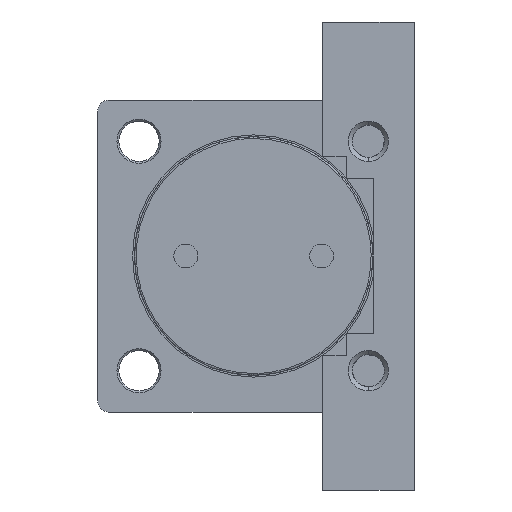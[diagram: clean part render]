
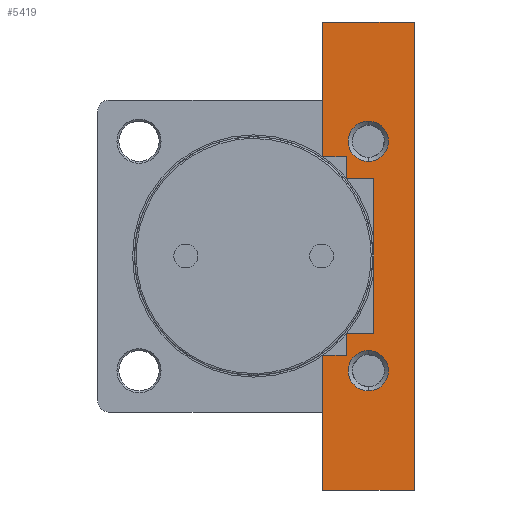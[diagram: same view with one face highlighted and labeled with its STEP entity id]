
A CAD part, left-side view. The second image highlights one B-rep face of the part: STEP entity #5419.
In plain terms, the highlighted planar face has unit normal (1, 0, 0).
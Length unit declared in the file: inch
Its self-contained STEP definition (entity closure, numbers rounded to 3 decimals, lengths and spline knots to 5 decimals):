
#28 = CARTESIAN_POINT ( 'NONE',  ( -3.01181, -1.47638, -5.01969 ) ) ;
#148 = AXIS2_PLACEMENT_3D ( 'NONE', #8833, #8822, #8787 ) ;
#184 = DIRECTION ( 'NONE',  ( 0., 0., 1. ) ) ;
#200 = DIRECTION ( 'NONE',  ( -1., 0., 0. ) ) ;
#220 = CARTESIAN_POINT ( 'NONE',  ( -3.01181, -2.46063, -2.46063 ) ) ;
#423 = CARTESIAN_POINT ( 'NONE',  ( -3.01181, -1.98819, 5.01969 ) ) ;
#528 = DIRECTION ( 'NONE',  ( 0., 0., 1. ) ) ;
#1152 = VERTEX_POINT ( 'NONE', #7656 ) ;
#1538 = ORIENTED_EDGE ( 'NONE', *, *, #7021, .T. ) ;
#1750 = CIRCLE ( 'NONE', #4179, 0.43307 ) ;
#1957 = EDGE_CURVE ( 'NONE', #14884, #10885, #4049, .T. ) ;
#2029 = CARTESIAN_POINT ( 'NONE',  ( -3.01181, -1.98819, -1.65354 ) ) ;
#2374 = EDGE_CURVE ( 'NONE', #6176, #8294, #4829, .T. ) ;
#2458 = CARTESIAN_POINT ( 'NONE',  ( -3.01181, -2.46063, -2.02756 ) ) ;
#2666 = EDGE_CURVE ( 'NONE', #10532, #7452, #5219, .T. ) ;
#2688 = VERTEX_POINT ( 'NONE', #28 ) ;
#2766 = ORIENTED_EDGE ( 'NONE', *, *, #6786, .T. ) ;
#2849 = VERTEX_POINT ( 'NONE', #3505 ) ;
#3505 = CARTESIAN_POINT ( 'NONE',  ( -3.01181, -1.47638, -2.12598 ) ) ;
#3607 = AXIS2_PLACEMENT_3D ( 'NONE', #4468, #4464, #4450 ) ;
#3609 = ORIENTED_EDGE ( 'NONE', *, *, #6195, .T. ) ;
#3708 = EDGE_LOOP ( 'NONE', ( #8253, #8062, #7886, #5988, #5710, #5442, #5216, #1538, #2766, #13570, #3609, #12595 ) ) ;
#3760 = CARTESIAN_POINT ( 'NONE',  ( -3.01181, -2.57874, -1.65354 ) ) ;
#3942 = DIRECTION ( 'NONE',  ( 0., 0., 1. ) ) ;
#4007 = CARTESIAN_POINT ( 'NONE',  ( -3.01181, -3.44488, 2.12598 ) ) ;
#4038 = DIRECTION ( 'NONE',  ( 0., 1., 0. ) ) ;
#4049 = CIRCLE ( 'NONE', #148, 0.43307 ) ;
#4056 = CARTESIAN_POINT ( 'NONE',  ( -3.01181, -1.98819, 5.01969 ) ) ;
#4089 = CARTESIAN_POINT ( 'NONE',  ( -3.01181, -1.47638, 5.01969 ) ) ;
#4179 = AXIS2_PLACEMENT_3D ( 'NONE', #9904, #14567, #14413 ) ;
#4450 = DIRECTION ( 'NONE',  ( 0., 0., 1. ) ) ;
#4464 = DIRECTION ( 'NONE',  ( -1., 0., 0. ) ) ;
#4468 = CARTESIAN_POINT ( 'NONE',  ( -3.01181, -2.46063, 2.46063 ) ) ;
#4606 = EDGE_LOOP ( 'NONE', ( #8731, #8517 ) ) ;
#4829 = LINE ( 'NONE', #4007, #4861 ) ;
#4861 = VECTOR ( 'NONE', #4038, 39.37008 ) ;
#4894 = DIRECTION ( 'NONE',  ( 0., 0., -1. ) ) ;
#4909 = DIRECTION ( 'NONE',  ( 1., 0., 0. ) ) ;
#4979 = CARTESIAN_POINT ( 'NONE',  ( -3.01181, -3.44488, -5.01969 ) ) ;
#5010 = CARTESIAN_POINT ( 'NONE',  ( -3.01181, -3.44488, 5.01969 ) ) ;
#5058 = PLANE ( 'NONE',  #10865 ) ;
#5151 = CARTESIAN_POINT ( 'NONE',  ( -3.01181, -3.44488, 5.01969 ) ) ;
#5216 = ORIENTED_EDGE ( 'NONE', *, *, #8055, .T. ) ;
#5219 = CIRCLE ( 'NONE', #10009, 0.43307 ) ;
#5350 = DIRECTION ( 'NONE',  ( 0., -1., 0. ) ) ;
#5419 = ADVANCED_FACE ( 'NONE', ( #9682, #9607, #9562 ), #5058, .T. ) ;
#5440 = DIRECTION ( 'NONE',  ( 0., 0., 1. ) ) ;
#5442 = ORIENTED_EDGE ( 'NONE', *, *, #8302, .T. ) ;
#5459 = CARTESIAN_POINT ( 'NONE',  ( -3.01181, -3.44488, 5.01969 ) ) ;
#5468 = CARTESIAN_POINT ( 'NONE',  ( -3.01181, -3.44488, -5.01969 ) ) ;
#5557 = VERTEX_POINT ( 'NONE', #3760 ) ;
#5580 = VERTEX_POINT ( 'NONE', #2029 ) ;
#5665 = VECTOR ( 'NONE', #5440, 39.37008 ) ;
#5684 = VECTOR ( 'NONE', #11381, 39.37008 ) ;
#5710 = ORIENTED_EDGE ( 'NONE', *, *, #8909, .T. ) ;
#5866 = CARTESIAN_POINT ( 'NONE',  ( -3.01181, -1.98819, -2.12598 ) ) ;
#5894 = EDGE_CURVE ( 'NONE', #8226, #6176, #10370, .T. ) ;
#5988 = ORIENTED_EDGE ( 'NONE', *, *, #13332, .F. ) ;
#6176 = VERTEX_POINT ( 'NONE', #7336 ) ;
#6195 = EDGE_CURVE ( 'NONE', #1152, #8226, #10889, .T. ) ;
#6438 = EDGE_CURVE ( 'NONE', #5557, #1152, #11190, .T. ) ;
#6728 = DIRECTION ( 'NONE',  ( 0., -1., 0. ) ) ;
#6786 = EDGE_CURVE ( 'NONE', #5580, #5557, #11673, .T. ) ;
#6918 = VERTEX_POINT ( 'NONE', #4979 ) ;
#6927 = EDGE_CURVE ( 'NONE', #10885, #14884, #11820, .T. ) ;
#7021 = EDGE_CURVE ( 'NONE', #13279, #5580, #11940, .T. ) ;
#7336 = CARTESIAN_POINT ( 'NONE',  ( -3.01181, -1.98819, 2.12598 ) ) ;
#7452 = VERTEX_POINT ( 'NONE', #2458 ) ;
#7618 = VERTEX_POINT ( 'NONE', #4089 ) ;
#7656 = CARTESIAN_POINT ( 'NONE',  ( -3.01181, -2.57874, 1.65354 ) ) ;
#7761 = CARTESIAN_POINT ( 'NONE',  ( -3.01181, -2.46063, 2.02756 ) ) ;
#7886 = ORIENTED_EDGE ( 'NONE', *, *, #8973, .T. ) ;
#7995 = CARTESIAN_POINT ( 'NONE',  ( -3.01181, -3.44488, -1.65354 ) ) ;
#8055 = EDGE_CURVE ( 'NONE', #2849, #13279, #13339, .T. ) ;
#8062 = ORIENTED_EDGE ( 'NONE', *, *, #14238, .T. ) ;
#8226 = VERTEX_POINT ( 'NONE', #12756 ) ;
#8253 = ORIENTED_EDGE ( 'NONE', *, *, #2374, .T. ) ;
#8294 = VERTEX_POINT ( 'NONE', #12462 ) ;
#8302 = EDGE_CURVE ( 'NONE', #2688, #2849, #13625, .T. ) ;
#8335 = EDGE_LOOP ( 'NONE', ( #11130, #10932 ) ) ;
#8517 = ORIENTED_EDGE ( 'NONE', *, *, #2666, .T. ) ;
#8563 = DIRECTION ( 'NONE',  ( 0., 1., 0. ) ) ;
#8731 = ORIENTED_EDGE ( 'NONE', *, *, #11602, .T. ) ;
#8787 = DIRECTION ( 'NONE',  ( 0., 0., 1. ) ) ;
#8822 = DIRECTION ( 'NONE',  ( -1., 0., 0. ) ) ;
#8833 = CARTESIAN_POINT ( 'NONE',  ( -3.01181, -2.46063, 2.46063 ) ) ;
#8909 = EDGE_CURVE ( 'NONE', #6918, #2688, #14394, .T. ) ;
#8965 = CARTESIAN_POINT ( 'NONE',  ( -3.01181, -3.44488, 1.65354 ) ) ;
#8973 = EDGE_CURVE ( 'NONE', #7618, #12409, #14404, .T. ) ;
#8982 = DIRECTION ( 'NONE',  ( 0., 0., 1. ) ) ;
#9347 = CARTESIAN_POINT ( 'NONE',  ( -3.01181, -2.46063, 2.8937 ) ) ;
#9562 = FACE_OUTER_BOUND ( 'NONE', #3708, .T. ) ;
#9607 = FACE_BOUND ( 'NONE', #4606, .T. ) ;
#9682 = FACE_BOUND ( 'NONE', #8335, .T. ) ;
#9904 = CARTESIAN_POINT ( 'NONE',  ( -3.01181, -2.46063, -2.46063 ) ) ;
#10009 = AXIS2_PLACEMENT_3D ( 'NONE', #220, #200, #184 ) ;
#10370 = LINE ( 'NONE', #423, #10391 ) ;
#10391 = VECTOR ( 'NONE', #528, 39.37008 ) ;
#10532 = VERTEX_POINT ( 'NONE', #11708 ) ;
#10706 = LINE ( 'NONE', #13240, #5684 ) ;
#10865 = AXIS2_PLACEMENT_3D ( 'NONE', #5010, #4909, #4894 ) ;
#10873 = VECTOR ( 'NONE', #13737, 39.37008 ) ;
#10885 = VERTEX_POINT ( 'NONE', #7761 ) ;
#10889 = LINE ( 'NONE', #8965, #10873 ) ;
#10932 = ORIENTED_EDGE ( 'NONE', *, *, #6927, .T. ) ;
#11130 = ORIENTED_EDGE ( 'NONE', *, *, #1957, .T. ) ;
#11190 = LINE ( 'NONE', #14960, #11207 ) ;
#11207 = VECTOR ( 'NONE', #8982, 39.37008 ) ;
#11381 = DIRECTION ( 'NONE',  ( 0., 0., 1. ) ) ;
#11602 = EDGE_CURVE ( 'NONE', #7452, #10532, #1750, .T. ) ;
#11673 = LINE ( 'NONE', #7995, #11690 ) ;
#11690 = VECTOR ( 'NONE', #6728, 39.37008 ) ;
#11708 = CARTESIAN_POINT ( 'NONE',  ( -3.01181, -2.46063, -2.8937 ) ) ;
#11820 = CIRCLE ( 'NONE', #3607, 0.43307 ) ;
#11940 = LINE ( 'NONE', #4056, #11982 ) ;
#11982 = VECTOR ( 'NONE', #3942, 39.37008 ) ;
#12409 = VERTEX_POINT ( 'NONE', #13868 ) ;
#12412 = DIRECTION ( 'NONE',  ( 0., 0., 1. ) ) ;
#12462 = CARTESIAN_POINT ( 'NONE',  ( -3.01181, -1.47638, 2.12598 ) ) ;
#12484 = CARTESIAN_POINT ( 'NONE',  ( -3.01181, -1.47638, 5.01969 ) ) ;
#12595 = ORIENTED_EDGE ( 'NONE', *, *, #5894, .T. ) ;
#12756 = CARTESIAN_POINT ( 'NONE',  ( -3.01181, -1.98819, 1.65354 ) ) ;
#13240 = CARTESIAN_POINT ( 'NONE',  ( -3.01181, -1.47638, 5.01969 ) ) ;
#13279 = VERTEX_POINT ( 'NONE', #5866 ) ;
#13332 = EDGE_CURVE ( 'NONE', #6918, #12409, #15090, .T. ) ;
#13339 = LINE ( 'NONE', #14548, #13377 ) ;
#13377 = VECTOR ( 'NONE', #14532, 39.37008 ) ;
#13570 = ORIENTED_EDGE ( 'NONE', *, *, #6438, .T. ) ;
#13625 = LINE ( 'NONE', #12484, #13640 ) ;
#13640 = VECTOR ( 'NONE', #12412, 39.37008 ) ;
#13737 = DIRECTION ( 'NONE',  ( 0., 1., 0. ) ) ;
#13868 = CARTESIAN_POINT ( 'NONE',  ( -3.01181, -3.44488, 5.01969 ) ) ;
#14238 = EDGE_CURVE ( 'NONE', #8294, #7618, #10706, .T. ) ;
#14394 = LINE ( 'NONE', #5468, #14457 ) ;
#14404 = LINE ( 'NONE', #5151, #14507 ) ;
#14413 = DIRECTION ( 'NONE',  ( 0., 0., 1. ) ) ;
#14457 = VECTOR ( 'NONE', #8563, 39.37008 ) ;
#14507 = VECTOR ( 'NONE', #5350, 39.37008 ) ;
#14532 = DIRECTION ( 'NONE',  ( 0., -1., 0. ) ) ;
#14548 = CARTESIAN_POINT ( 'NONE',  ( -3.01181, -3.44488, -2.12598 ) ) ;
#14567 = DIRECTION ( 'NONE',  ( -1., 0., 0. ) ) ;
#14884 = VERTEX_POINT ( 'NONE', #9347 ) ;
#14960 = CARTESIAN_POINT ( 'NONE',  ( -3.01181, -2.57874, 5.01969 ) ) ;
#15090 = LINE ( 'NONE', #5459, #5665 ) ;
